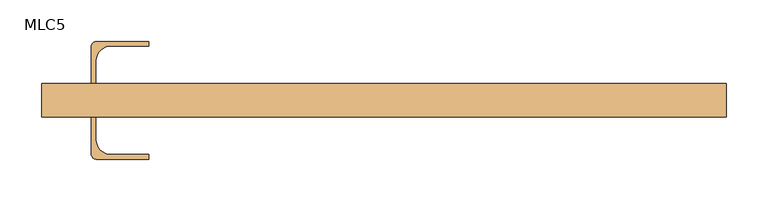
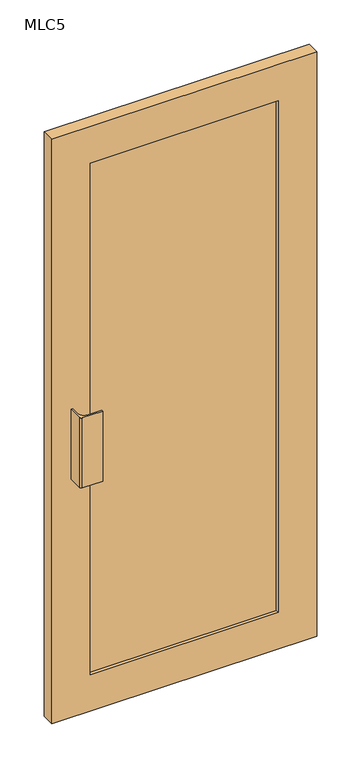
"""IFC4 building model written with IfcOpenShell, lengths in millimetres: door geometry, 门嵌板_单开门2 : MLC5."""

from ifc_helpers import new_model, si_unit, point, frame, frame_2d, origin, place, context, project, spatial, polyline, circle_curve, trimmed, segment, composite_curve, outline, extrude, source, transform, mapped, element, save


def mlc5_c38d646a(model_context):
    return source(origin(), model_context, "Body", "SweptSolid", [
        extrude(outline(composite_curve([segment(polyline([(-352.5, 20.0), (-352.5, 65.0)]), True, "CONTINUOUS"), segment(trimmed(circle_curve(frame_2d((-346.5, 65.0)), 6.0), [point((-352.5, 65.0))], [point((-346.5, 71.0))], False, "CARTESIAN"), True, "CONTINUOUS"), segment(polyline([(-346.5, 71.0), (-283.5, 71.0), (-283.5, 65.5), (-329.0, 65.5)]), True, "CONTINUOUS"), segment(trimmed(circle_curve(frame_2d((-329.0, 47.5)), 18.0), [point((-329.0, 65.5))], [point((-347.0, 47.5))], True, "CARTESIAN"), True, "CONTINUOUS"), segment(polyline([(-347.0, 47.5), (-347.0, 20.0), (-352.5, 20.0)]), True, "CONTINUOUS")], self_intersect=False)), frame((0.0, 0.0, 785.0), z_axis=(0.0, 0.0, 1.0), x_axis=(1.0, 0.0, 0.0)), (0.0, 0.0, 1.0), 230.0),
        extrude(outline(composite_curve([segment(polyline([(-352.5, -20.0), (-347.0, -20.0), (-347.0, -47.5)]), True, "CONTINUOUS"), segment(trimmed(circle_curve(frame_2d((-329.0, -47.5)), 18.0), [point((-347.0, -47.5))], [point((-329.0, -65.5))], True, "CARTESIAN"), True, "CONTINUOUS"), segment(polyline([(-329.0, -65.5), (-283.5, -65.5), (-283.5, -71.0), (-346.5, -71.0)]), True, "CONTINUOUS"), segment(trimmed(circle_curve(frame_2d((-346.5, -65.0)), 6.0), [point((-346.5, -71.0))], [point((-352.5, -65.0))], False, "CARTESIAN"), True, "CONTINUOUS"), segment(polyline([(-352.5, -65.0), (-352.5, -20.0)]), True, "CONTINUOUS")], self_intersect=False)), frame((0.0, 0.0, 785.0), z_axis=(0.0, 0.0, 1.0), x_axis=(1.0, 0.0, 0.0)), (0.0, 0.0, 1.0), 230.0),
        extrude(outline(polyline([(292.5, -10.0), (-292.5, -10.0), (-292.5, 10.0), (292.5, 10.0), (292.5, -10.0)])), frame((0.0, 0.0, 120.0), z_axis=(0.0, 0.0, 1.0), x_axis=(1.0, 0.0, 0.0)), (0.0, 0.0, 1.0), 1685.0),
        extrude(outline(polyline([(1925.0, -412.5), (0.0, -412.5), (0.0, 412.5), (1925.0, 412.5), (1925.0, -412.5)]), holes=[polyline([(1805.0, -292.5), (1805.0, 292.5), (120.0, 292.5), (120.0, -292.5), (1805.0, -292.5)])]), frame((0.0, -20.0, 0.0), z_axis=(0.0, 1.0, 0.0), x_axis=(0.0, 0.0, 1.0)), (0.0, 0.0, 1.0), 40.0),
    ])


if __name__ == "__main__":
    model = new_model("IFC4")
    model_context = context("Model", 3, world=origin())
    ifc_project = project(units=[si_unit("LENGTHUNIT", "METRE", prefix="MILLI")], contexts=[model_context])
    site = spatial("IfcSite", under=ifc_project)
    building = spatial("IfcBuilding", under=site)
    placement = place(None, origin())
    mlc5_shape = mlc5_c38d646a(model_context)
    element("IfcDoor", 1, ObjectType="门嵌板_单开门2 : MLC5", at=placement, inside=building, context=model_context, shape_type="MappedRepresentation", body=[
        mapped(mlc5_shape, transform((0.0, 0.0, 0.0), x_axis=(1.0, 0.0, 0.0), y_axis=(0.0, 1.0, 0.0), z_axis=(0.0, 0.0, 1.0))),
    ])
    save(model, "model.ifc")
